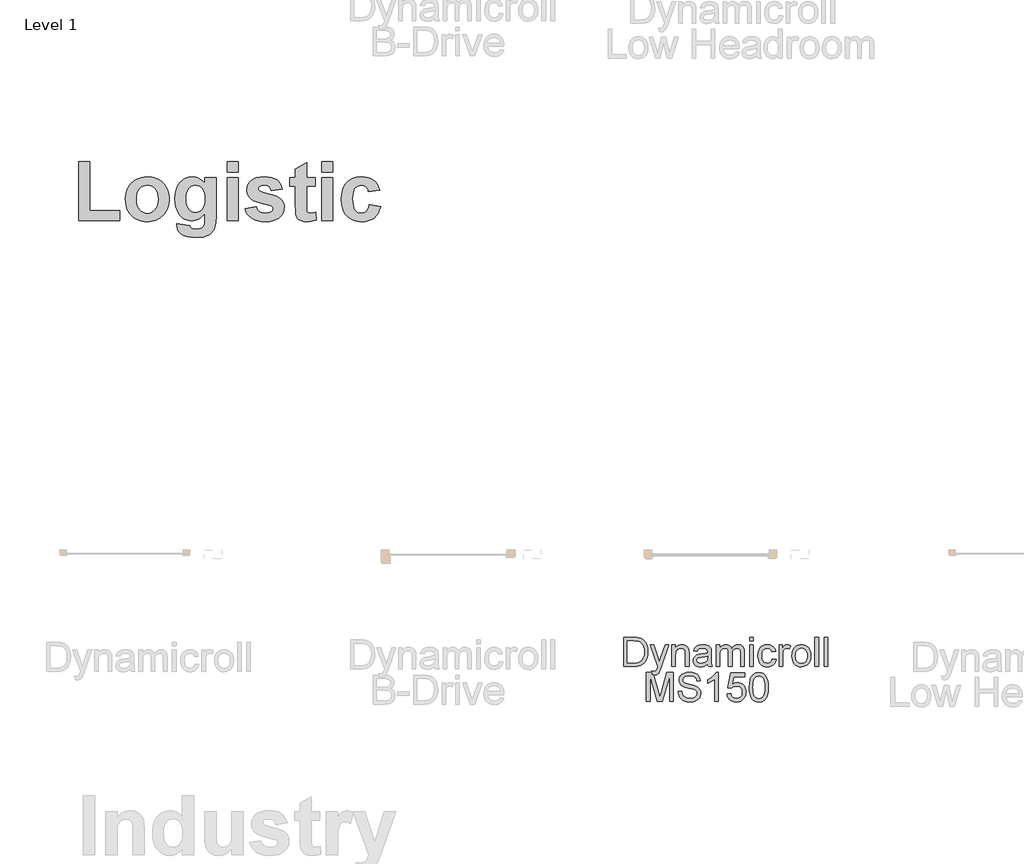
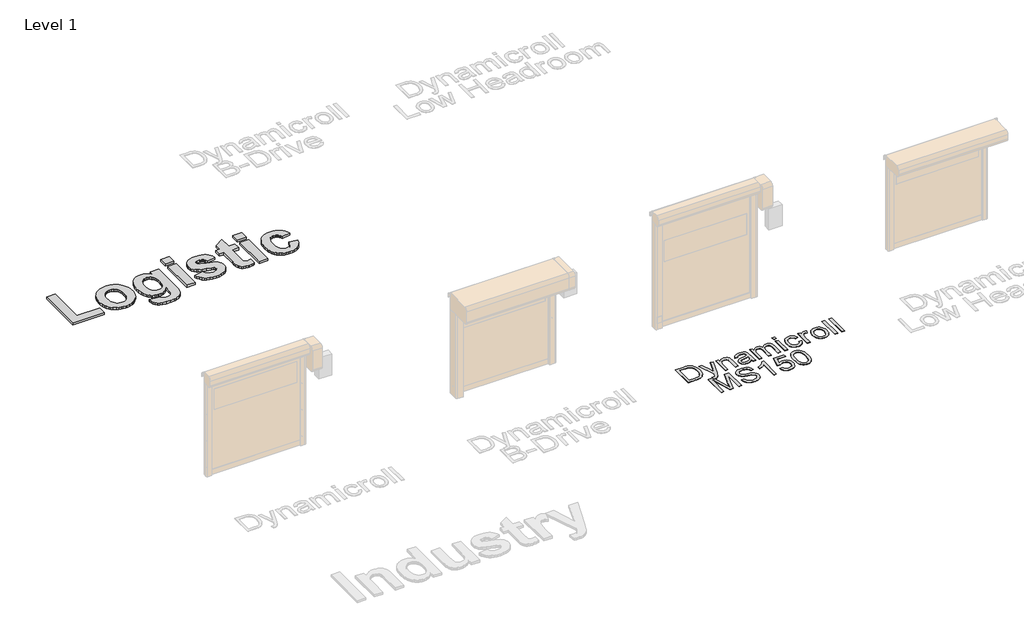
# One storey, part 7 of 20: 2 proxies.
"""IFC4 building model written with IfcOpenShell, lengths in millimetres."""

import ifcopenshell
import ifcopenshell.guid

model = None  # the IFC model being written
_history = None  # IfcOwnerHistory: only IFC2X3 demands one
_inside = {}  # id of a spatial element -> (the spatial element, [elements in it])
_under = {}  # id of a project, library or spatial element -> (it, [spatial elements below it])
_declared = {}  # id of a project -> (the project, [libraries it declares])
_typed = {}  # id of a type object -> (the type object, [elements of that type])
_made_of = {}  # id of a material, layer set ... -> (it, [elements and type objects made of it])


def new_model(schema):
    """Start an empty IFC model of exactly this schema.

    Asked for "IFC4X3", IfcOpenShell would pick the latest addendum, in which some entities
    have other attributes; the version numbers below select the first issue.
    IFC2X3 requires an IfcOwnerHistory on every rooted entity: one is made here for all.
    """
    global model, _history
    if schema == "IFC4X3":
        model = ifcopenshell.file(schema_version=(4, 3, 0, 0))
    else:
        model = ifcopenshell.file(schema=schema)
    _inside.clear()
    _under.clear()
    _declared.clear()
    _typed.clear()
    _made_of.clear()
    _history = None
    if model.schema == "IFC2X3":
        org = make("IfcOrganization", Name="unknown")
        user = make(
            "IfcPersonAndOrganization",
            ThePerson=make("IfcPerson", FamilyName="unknown"),
            TheOrganization=org,
        )
        app = make(
            "IfcApplication",
            ApplicationDeveloper=org,
            Version="unknown",
            ApplicationFullName="unknown",
            ApplicationIdentifier="unknown",
        )
        _history = make(
            "IfcOwnerHistory",
            OwningUser=user,
            OwningApplication=app,
            ChangeAction="ADDED",
            CreationDate=0,
        )
    return model


def make(cls, **values):
    """One entity of the class cls with the attributes given. An attribute that is None is left unset."""
    return model.create_entity(
        cls, **{name: value for name, value in values.items() if value is not None}
    )


def rooted(cls, **values):
    """An entity with a GlobalId (a new one), such as an element, a storey or a relation."""
    return make(cls, GlobalId=ifcopenshell.guid.new(), OwnerHistory=_history, **values)


def si_unit(unit_type, name, prefix=None):
    """IfcSIUnit, for example si_unit("LENGTHUNIT", "METRE", prefix="MILLI")."""
    return make("IfcSIUnit", UnitType=unit_type, Prefix=prefix, Name=name)


def assignment(units):
    """IfcUnitAssignment: the units of a project."""
    return None if units is None else make("IfcUnitAssignment", Units=units)


def point(xyz):
    """IfcCartesianPoint."""
    return None if xyz is None else make("IfcCartesianPoint", Coordinates=xyz)


def direction(xyz):
    """IfcDirection."""
    return None if xyz is None else make("IfcDirection", DirectionRatios=xyz)


def frame(location, z_axis=None, x_axis=None):
    """IfcAxis2Placement3D, a coordinate frame: its origin and axes. An axis left out is left unset."""
    return make(
        "IfcAxis2Placement3D",
        Location=point(location),
        Axis=direction(z_axis),
        RefDirection=direction(x_axis),
    )


def origin():
    """The frame at (0, 0, 0) with its axes left unset."""
    return frame((0.0, 0.0, 0.0))


def origin_with_axes():
    """The frame at (0, 0, 0) with the z axis (0, 0, 1) and the x axis (1, 0, 0) written out."""
    return frame((0.0, 0.0, 0.0), z_axis=(0.0, 0.0, 1.0), x_axis=(1.0, 0.0, 0.0))


def place(relative_to, where):
    """IfcLocalPlacement: puts the frame where relative to a parent placement (None: the world)."""
    return make(
        "IfcLocalPlacement", PlacementRelTo=relative_to, RelativePlacement=where
    )


def context(
    kind, dimensions, precision=None, world=None, true_north=None, identifier=None
):
    """IfcGeometricRepresentationContext, for example the 3D "Model" context."""
    return make(
        "IfcGeometricRepresentationContext",
        ContextIdentifier=identifier,
        ContextType=kind,
        CoordinateSpaceDimension=dimensions,
        Precision=precision,
        WorldCoordinateSystem=world,
        TrueNorth=true_north,
    )


def project(units=None, contexts=None):
    """IfcProject with its units and contexts."""
    return rooted(
        "IfcProject",
        Name="project",
        RepresentationContexts=contexts,
        UnitsInContext=assignment(units),
    )


def spatial(cls, under=None, at=None, **own):
    """A site, building, storey or space (cls), placed at a placement, below another one or the project."""
    s = rooted(cls, ObjectPlacement=at, **own)
    if under is not None:
        _under.setdefault(under.id(), (under, []))[1].append(s)
    return s


def polyline(points):
    """IfcPolyline through the points."""
    return make("IfcPolyline", Points=[point(p) for p in points])


def outline(outer, holes=None, kind="AREA"):
    """IfcArbitraryClosedProfileDef: a profile drawn as a closed curve; with holes, ...WithVoids."""
    if holes is None:
        return make("IfcArbitraryClosedProfileDef", ProfileType=kind, OuterCurve=outer)
    return make(
        "IfcArbitraryProfileDefWithVoids",
        ProfileType=kind,
        OuterCurve=outer,
        InnerCurves=holes,
    )


def extrude(swept, where, along, depth):
    """IfcExtrudedAreaSolid: the profile swept, set in the frame where, extruded along a direction by depth."""
    return make(
        "IfcExtrudedAreaSolid",
        SweptArea=swept,
        Position=where,
        ExtrudedDirection=direction(along),
        Depth=depth,
    )


def shape(context_of_items, identifier, shape_type, items):
    """IfcShapeRepresentation: the items that make up one representation, for example the "Body"."""
    return make(
        "IfcShapeRepresentation",
        ContextOfItems=context_of_items,
        RepresentationIdentifier=identifier,
        RepresentationType=shape_type,
        Items=items,
    )


def made_of(thing, what):
    """Note that an element or type object is made of a material, layer set ...; save() writes the relation."""
    if what is not None:
        _made_of.setdefault(what.id(), (what, []))[1].append(thing)
    return thing


def element(
    cls,
    number,
    at=None,
    inside=None,
    cuts=None,
    type_object=None,
    material=None,
    context=None,
    identifier="Body",
    shape_type=None,
    held_by="IfcProductDefinitionShape",
    body=None,
    shapes=None,
    **own,
):
    """One element of the class cls, such as IfcWall. Its Tag is "e" and its number.

    at: its placement. inside: the storey or other place that contains it. cuts: it is an
    opening in that element (IfcRelVoidsElement). A single representation is given by context,
    identifier, shape_type and body (its items); several are given by shapes. held_by: the class
    of the entity that holds the representations. save() writes the other relations.
    """
    e = rooted(cls, Tag="e%d" % number, ObjectPlacement=at, **own)
    if body is not None:
        shapes = [shape(context, identifier, shape_type, body)]
    if shapes is not None:
        e.Representation = make(held_by, Representations=shapes)
    if inside is not None:
        _inside.setdefault(inside.id(), (inside, []))[1].append(e)
    if cuts is not None:
        rooted(
            "IfcRelVoidsElement", RelatingBuildingElement=cuts, RelatedOpeningElement=e
        )
    if type_object is not None:
        _typed.setdefault(type_object.id(), (type_object, []))[1].append(e)
    return made_of(e, material)


def aggregate(whole, parts):
    """IfcRelAggregates: a whole, such as a stair, and the parts it consists of."""
    return rooted("IfcRelAggregates", RelatingObject=whole, RelatedObjects=parts)


def save(model, path):
    """Write the relations noted so far, then the file.

    IfcRelAggregates (storeys below a building ...), IfcRelContainedInSpatialStructure (elements
    in a storey), IfcRelDefinesByType, IfcRelAssociatesMaterial and IfcRelDeclares: one each for
    every whole, place, type object, material and project.
    """
    for whole, parts in _under.values():
        aggregate(whole, parts)
    for where, things in _inside.values():
        rooted(
            "IfcRelContainedInSpatialStructure",
            RelatedElements=things,
            RelatingStructure=where,
        )
    for kind, things in _typed.values():
        rooted("IfcRelDefinesByType", RelatedObjects=things, RelatingType=kind)
    for what, things in _made_of.values():
        rooted("IfcRelAssociatesMaterial", RelatedObjects=things, RelatingMaterial=what)
    for by, libraries in _declared.values():
        rooted("IfcRelDeclares", RelatingContext=by, RelatedDefinitions=libraries)
    model.write(path)


model = new_model("IFC4")

# Units and contexts
model_context = context("Model", 3, world=origin())
ifc_project = project(units=[si_unit("LENGTHUNIT", "METRE", prefix="MILLI")], contexts=[model_context])

# Site, building, storey
site = spatial("IfcSite", under=ifc_project)
building = spatial("IfcBuilding", under=site)
storey = spatial("IfcBuildingStorey", under=building, Name="Level 1", Elevation=0.0)

# Proxies
placement = place(None, origin())
element("IfcBuildingElementProxy", 1, Name="1000", ObjectType="1000", at=placement, inside=storey, context=model_context, shape_type="SweptSolid", body=[
    extrude(outline(polyline([(688.190889, 26929.161289), (688.190889, 27949.4206889), (882.5260128, 27949.4206889), (882.5260128, 27107.3018191), (1400.7530096, 27107.3018191), (1400.7530096, 26929.161289), (688.190889, 26929.161289)])), origin_with_axes(), (0.0, 0.0, 1.0), 50.0),
    extrude(outline(polyline([(1497.9205715, 27312.264645), (1500.9175203, 27360.8405185), (1509.9083664, 27408.6414553), (1524.8931101, 27455.6674555), (1545.8717512, 27501.9185191), (1572.3382087, 27545.0698363), (1603.7864015, 27582.7965971), (1640.2163297, 27615.0988018), (1681.6279933, 27641.9764501), (1726.8115421, 27663.121149), (1774.5571264, 27678.2245054), (1824.8647459, 27687.2865193), (1877.7344007, 27690.3071905), (1918.6656827, 27688.5952132), (1957.7031144, 27683.4592813), (1994.846696, 27674.8993948), (2030.0964273, 27662.9155536), (2063.4523085, 27647.5077579), (2094.9143395, 27628.6760075), (2124.4825203, 27606.4203025), (2152.156851, 27580.7406429), (2177.2137936, 27552.4435953), (2198.9298106, 27522.3357265), (2217.3049019, 27490.4170364), (2232.3390676, 27456.6875251), (2244.0323075, 27421.1471925), (2252.3846217, 27383.7960387), (2257.3960102, 27344.6340635), (2259.0664731, 27303.6612671), (2257.3782183, 27262.3701932), (2252.3134541, 27222.8859868), (2243.8721803, 27185.2086479), (2232.054397, 27149.3381765), (2216.8601041, 27115.2745726), (2198.2893018, 27083.0178362), (2176.34199, 27052.5679673), (2151.0181686, 27023.9249659), (2123.1362657, 26997.9191212), (2093.5147091, 26975.3807225), (2062.1534989, 26956.3097698), (2029.0526352, 26940.706263), (1994.2121178, 26928.5702021), (1957.6319468, 26919.9015872), (1919.3121221, 26914.7004183), (1879.2526439, 26912.9666953), (1829.1110822, 26915.8529388), (1780.155648, 26924.5116693), (1732.3863412, 26938.9428868), (1685.8031619, 26959.1465913), (1642.5648621, 26984.9330024), (1604.8301937, 27016.1123397), (1572.5991567, 27052.6846031), (1545.8717512, 27094.6497928), (1524.8931101, 27141.7469607), (1509.9083664, 27193.7151587), (1500.9175203, 27250.5543868), (1497.9205715, 27312.264645)]), holes=[polyline([(1692.2556953, 27301.6369429), (1695.6163898, 27246.2447903), (1705.6984733, 27197.732177), (1722.5019457, 27156.099103), (1746.0268071, 27121.3455683), (1774.4859587, 27093.9460239), (1806.0923019, 27074.3749207), (1840.8458366, 27062.6322588), (1878.7465628, 27058.7180382), (1916.6314741, 27062.6322588), (1951.3375637, 27074.3749207), (1982.8648317, 27093.9460239), (2011.2132781, 27121.3455683), (2034.6274342, 27156.1939932), (2051.3518315, 27198.1117378), (2061.3864698, 27247.0988021), (2064.7313493, 27303.1551861), (2061.3864698, 27357.8831073), (2051.3518315, 27405.9212696), (2034.6274342, 27447.269673), (2011.2132781, 27481.9283176), (1982.8648317, 27509.327862), (1951.3375637, 27528.8989652), (1916.6314741, 27540.6416271), (1878.7465628, 27544.5558477), (1840.8458366, 27540.6416271), (1806.0923019, 27528.8989652), (1774.4859587, 27509.327862), (1746.0268071, 27481.9283176), (1722.5019457, 27447.1747828), (1705.6984733, 27405.5417088), (1695.6163898, 27357.0290955), (1692.2556953, 27301.6369429)])]), origin_with_axes(), (0.0, 0.0, 1.0), 50.0),
    extrude(outline(polyline([(2388.6232223, 26880.577508), (2615.3475334, 26848.1883207), (2624.0141714, 26819.5947413), (2639.3863833, 26801.628864), (2654.3948495, 26793.6580874), (2673.1040334, 26787.9646756), (2721.6245542, 26783.4099461), (2755.3105742, 26784.8491141), (2784.5051249, 26789.1666181), (2809.2082062, 26796.362458), (2829.4198182, 26806.436634), (2850.5487021, 26826.6166159), (2865.8576539, 26856.2856176), (2872.3101873, 26891.2052101), (2874.4610318, 26946.8741258), (2874.4610318, 27055.4285113), (2849.912147, 27025.8346311), (2824.3431927, 27000.1866016), (2797.7541687, 26978.4844227), (2770.145075, 26960.7280946), (2741.5159118, 26946.9176171), (2711.866679, 26937.0529904), (2681.1973765, 26931.1342143), (2649.5080044, 26929.161289), (2614.5132904, 26931.1421218), (2581.3926578, 26937.0846204), (2550.1461067, 26946.9887848), (2520.7736369, 26960.8546148), (2493.2752485, 26978.6821106), (2467.6509415, 27000.4712722), (2443.9007159, 27026.2220994), (2422.0245717, 27055.9345924), (2393.2412119, 27109.1047329), (2372.6816692, 27168.4111061), (2360.3459435, 27233.8537121), (2356.234035, 27305.4325508), (2361.6190537, 27393.5301914), (2368.350327, 27433.4334962), (2377.7741098, 27470.573124), (2389.8904018, 27504.9490748), (2404.6992032, 27536.5613486), (2422.2005139, 27565.4099454), (2442.394334, 27591.4948652), (2488.1076865, 27634.7252575), (2512.939265, 27651.708626), (2539.0874449, 27665.6041092), (2566.5522264, 27676.4117073), (2595.3336093, 27684.1314202), (2625.4315937, 27688.763248), (2656.8461796, 27690.3071905), (2689.1404767, 27688.4766005), (2719.9797908, 27682.9848303), (2749.3641219, 27673.8318801), (2777.2934699, 27661.0177497), (2803.7678349, 27644.5424392), (2828.7872169, 27624.4059486), (2852.3516159, 27600.6082779), (2874.4610318, 27573.1494271), (2874.4610318, 27674.1125969), (3068.7961556, 27674.1125969), (3068.7961556, 27012.411622), (3063.5139346, 26898.5117553), (3056.9111584, 26853.873825), (3047.6672717, 26817.4438969), (3036.0432225, 26786.8655308), (3022.299959, 26759.782287), (3006.437481, 26736.1941655), (2988.4557887, 26716.1011663), (2967.8171708, 26698.7441677), (2943.9839163, 26683.3640483), (2886.7334973, 26658.5344467), (2852.8023443, 26649.4012652), (2814.6485775, 26642.8775641), (2725.6732026, 26637.6586033), (2640.3827304, 26641.5491014), (2568.471776, 26653.2205956), (2509.9403394, 26672.673086), (2485.6919402, 26685.3172048), (2464.7884206, 26699.9065726), (2431.1340306, 26733.1181416), (2407.0951807, 26770.5048793), (2392.6718707, 26812.0667857), (2387.8641007, 26857.8038607), (2388.6232223, 26880.577508)]), holes=[polyline([(2550.5691588, 27312.7707261), (2553.3763271, 27255.1723764), (2561.7978321, 27205.8611039), (2575.8336738, 27164.8369087), (2595.4838521, 27132.0997907), (2619.261754, 27107.0804087), (2645.6807664, 27089.2094215), (2674.7408893, 27078.4868293), (2706.4421227, 27074.9126318), (2740.3732757, 27078.5817195), (2771.568428, 27089.5889823), (2800.0275796, 27107.9344204), (2825.7507306, 27133.6180338), (2847.0614874, 27166.4974871), (2862.2834565, 27206.4304451), (2871.416638, 27253.4169077), (2874.4610318, 27307.456875), (2871.5431582, 27363.7979296), (2862.7895375, 27412.373803), (2848.2001697, 27453.1844953), (2827.7750548, 27486.2300065), (2802.8901006, 27511.747562), (2774.921215, 27529.9743874), (2743.8683979, 27540.9104826), (2709.7316495, 27544.5558477), (2676.5912482, 27540.9816503), (2646.5031481, 27530.259058), (2619.4673495, 27512.3880708), (2595.4838521, 27487.3686889), (2575.8336738, 27455.0111316), (2561.7978321, 27415.1256187), (2553.3763271, 27367.7121502), (2550.5691588, 27312.7707261)])]), origin_with_axes(), (0.0, 0.0, 1.0), 50.0),
    extrude(outline(polyline([(3263.1312794, 27771.2801588), (3263.1312794, 27949.4206889), (3457.4664032, 27949.4206889), (3457.4664032, 27771.2801588), (3263.1312794, 27771.2801588)])), origin_with_axes(), (0.0, 0.0, 1.0), 50.0),
    extrude(outline(polyline([(3263.1312794, 26929.161289), (3263.1312794, 27674.1125969), (3457.4664032, 27674.1125969), (3457.4664032, 26929.161289), (3263.1312794, 26929.161289)])), origin_with_axes(), (0.0, 0.0, 1.0), 50.0),
    extrude(outline(polyline([(3570.8285588, 27139.6910064), (3765.1636826, 27172.0801937), (3772.826066, 27145.9221294), (3783.667271, 27123.116852), (3797.6872976, 27103.6643616), (3814.8861459, 27087.5646581), (3835.5326713, 27074.9442619), (3859.8957294, 27065.9296932), (3887.9753202, 27060.5209519), (3919.7714438, 27058.7180382), (3954.5487011, 27060.4418768), (3984.7395988, 27065.6133925), (4010.344137, 27074.2325854), (4031.3623157, 27086.2994555), (4042.4328387, 27096.7373772), (4050.3403551, 27108.8200623), (4055.084865, 27122.5475108), (4056.6663683, 27137.9197228), (4053.3135813, 27158.0364446), (4043.2552204, 27174.3575585), (4020.2917927, 27187.7054462), (3979.7420484, 27199.9146516), (3875.3786466, 27225.3135943), (3792.0492384, 27249.6371149), (3729.753824, 27272.8852132), (3688.4924032, 27295.0578893), (3651.1847407, 27328.0954929), (3624.5364104, 27366.9846587), (3608.5474121, 27411.7253867), (3603.2177461, 27462.3176768), (3607.7882906, 27508.608278), (3621.499924, 27551.0716412), (3644.3526465, 27589.7077665), (3676.346458, 27624.5166538), (3717.9558095, 27653.3000136), (3769.6551519, 27673.8595564), (3831.4444853, 27686.195282), (3903.3238096, 27690.3071905), (3971.7554568, 27686.9860336), (4030.7929745, 27677.0225629), (4080.4363626, 27660.4167784), (4120.6856213, 27637.1686801), (4153.4701844, 27607.4047883), (4180.719486, 27571.2516232), (4202.4335261, 27528.7091848), (4218.6123048, 27479.7774731), (4024.277181, 27447.3882858), (4009.9803913, 27488.9501921), (3999.5108395, 27505.6034217), (3986.8271831, 27519.5048356), (3971.5814915, 27530.4646534), (3953.4258337, 27538.2930947), (3932.36021, 27542.9901594), (3908.3846201, 27544.5558477), (3853.0320051, 27539.2419966), (3832.2352369, 27532.5996828), (3816.0248282, 27523.3004435), (3802.1708595, 27505.8406472), (3797.5528699, 27483.8261215), (3802.1708595, 27464.7848219), (3816.0248282, 27448.6534884), (3836.0703824, 27438.0416014), (3871.4090733, 27425.4370202), (3987.9658655, 27394.2497754), (4055.9784143, 27375.6354817), (4112.872995, 27354.9652337), (4158.6496077, 27332.2390315), (4193.3082522, 27307.456875), (4218.5490446, 27278.6893303), (4236.5781821, 27244.7660848), (4247.3956646, 27205.6871386), (4251.0014921, 27161.4524917), (4245.7746237, 27112.2598319), (4230.0940186, 27066.6571847), (4203.9596768, 27024.6445499), (4167.3715983, 26986.2219275), (4145.2088066, 26969.0527325), (4120.5353785, 26954.1727635), (4063.6566128, 26931.2805034), (3996.7353012, 26917.5451473), (3919.7714438, 26912.9666953), (3849.2601198, 26916.7781183), (3786.5139769, 26928.212387), (3731.5330152, 26947.2695016), (3684.3172346, 26973.949462), (3644.7242998, 27007.1768461), (3612.6118756, 27045.8762315), (3587.9799619, 27090.0476183), (3570.8285588, 27139.6910064)])), origin_with_axes(), (0.0, 0.0, 1.0), 50.0),
    extrude(outline(polyline([(4785.4230825, 27674.1125969), (4785.4230825, 27528.361254), (4639.6717397, 27528.361254), (4639.6717397, 27208.77107), (4640.778792, 27132.0681606), (4644.0999489, 27095.7884752), (4651.3432339, 27081.1121247), (4664.2166707, 27069.21922), (4681.6132068, 27061.3433336), (4702.4257901, 27058.7180382), (4740.88795, 27063.3992879), (4793.5203793, 27077.4430371), (4801.6176762, 26939.28291), (4765.2905457, 26927.7695661), (4726.6544204, 26919.545749), (4685.7093003, 26914.6114588), (4642.4551854, 26912.9666953), (4590.7083979, 26917.5214248), (4544.2754614, 26931.1856132), (4506.3510126, 26952.0614566), (4480.1296882, 26978.251151), (4462.8280422, 27012.2218416), (4451.662629, 27056.4406735), (4446.9181191, 27109.2628832), (4445.3366159, 27197.8903274), (4445.3366159, 27528.361254), (4348.169054, 27528.361254), (4348.169054, 27674.1125969), (4445.3366159, 27674.1125969), (4445.3366159, 27819.8639397), (4639.6717397, 27933.2260953), (4639.6717397, 27674.1125969), (4785.4230825, 27674.1125969)])), origin_with_axes(), (0.0, 0.0, 1.0), 50.0),
    extrude(outline(polyline([(4898.7852381, 27771.2801588), (4898.7852381, 27949.4206889), (5093.1203619, 27949.4206889), (5093.1203619, 27771.2801588), (4898.7852381, 27771.2801588)])), origin_with_axes(), (0.0, 0.0, 1.0), 50.0),
    extrude(outline(polyline([(4898.7852381, 26929.161289), (4898.7852381, 27674.1125969), (5093.1203619, 27674.1125969), (5093.1203619, 26929.161289), (4898.7852381, 26929.161289)])), origin_with_axes(), (0.0, 0.0, 1.0), 50.0),
    extrude(outline(polyline([(5902.8500444, 27463.5828794), (5708.5149206, 27431.1936921), (5702.5131156, 27457.6601496), (5693.6171596, 27480.6314849), (5681.8270526, 27500.1076978), (5667.1427946, 27516.0887885), (5649.8016111, 27528.5431269), (5630.0407275, 27537.4390829), (5607.8601439, 27542.7766565), (5583.2598603, 27544.5558477), (5550.7125227, 27541.2188758), (5521.6444923, 27531.20796), (5496.0557691, 27514.5231003), (5473.9463532, 27491.1642967), (5456.1228111, 27459.992867), (5443.3917097, 27419.8701286), (5435.7530488, 27370.7960816), (5433.2068285, 27312.7707261), (5435.8558465, 27248.2928371), (5443.8029005, 27194.0314593), (5457.0479906, 27149.9865928), (5475.5911166, 27116.1582375), (5498.5940819, 27091.0281503), (5525.2186897, 27073.078088), (5555.4649401, 27062.3080506), (5589.3328329, 27058.7180382), (5614.8187584, 27060.7660849), (5637.8849838, 27066.9102252), (5658.5315092, 27077.150459), (5676.7583346, 27091.4867863), (5692.5180148, 27110.836479), (5705.7631049, 27136.116809), (5716.4936046, 27167.3277764), (5724.7095142, 27204.469381), (5919.044638, 27172.0801937), (5901.1341133, 27111.8644561), (5876.5021996, 27059.5087898), (5845.148897, 27015.0131949), (5807.0742054, 26978.3776712), (5762.1199745, 26949.7603693), (5710.1280539, 26929.3194393), (5651.0984438, 26917.0548813), (5585.031144, 26912.9666953), (5546.4958395, 26914.5758749), (5509.9650905, 26919.4034137), (5475.4388969, 26927.4493117), (5442.9172587, 26938.7135688), (5412.4001759, 26953.1961852), (5383.8876485, 26970.8971607), (5357.3796766, 26991.8164954), (5332.87626, 27015.9541893), (5310.8439424, 27042.9346354), (5291.7492671, 27072.3822266), (5275.5922341, 27104.2969629), (5262.3728435, 27138.6788443), (5252.0910953, 27175.5278709), (5244.7469894, 27214.8440426), (5238.8717047, 27300.8778214), (5244.7074518, 27387.8842246), (5252.0021357, 27427.5621652), (5262.2146932, 27464.6899317), (5275.3451243, 27499.2675242), (5291.3934288, 27531.2949426), (5310.359607, 27560.772187), (5332.2436587, 27587.6992573), (5356.6185781, 27611.7479917), (5383.0573593, 27632.5902281), (5411.5600023, 27650.2259666), (5442.1265071, 27664.6552072), (5474.7568736, 27675.8779499), (5509.4511019, 27683.8941947), (5546.2091921, 27688.7039416), (5585.031144, 27690.3071905), (5646.8521074, 27686.8041608), (5701.999127, 27676.2950714), (5750.4722027, 27658.7799225), (5792.2713346, 27634.2587141), (5828.0291239, 27602.5732957), (5858.378172, 27563.5655172), (5883.3184788, 27517.2353784), (5902.8500444, 27463.5828794)])), origin_with_axes(), (0.0, 0.0, 1.0), 50.0),
])
element("IfcBuildingElementProxy", 2, Name="500mm", ObjectType="500mm", at=placement, inside=storey, context=model_context, shape_type="SweptSolid", body=[
    extrude(outline(polyline([(10134.2260826, 19203.3584781), (10134.2260826, 19705.6400289), (10307.4985024, 19705.6400289), (10359.2778932, 19703.8312757), (10397.1390818, 19698.4050163), (10437.1769057, 19684.4561573), (10470.9607355, 19662.4752081), (10489.5770973, 19644.510304), (10505.6949273, 19624.2154806), (10519.3142253, 19601.5907379), (10530.4349914, 19576.6360759), (10545.2422417, 19520.656699), (10550.1779918, 19457.1970548), (10546.836397, 19403.2870141), (10536.8116127, 19355.8455651), (10521.5445099, 19315.4551877), (10502.4759598, 19282.6983617), (10480.5256674, 19256.8393232), (10456.6133377, 19237.142308), (10429.1601438, 19222.5343271), (10396.5872589, 19211.9423913), (10358.8333691, 19205.5044564), (10315.8371609, 19203.3584781), (10134.2260826, 19203.3584781)]), holes=[polyline([(10197.0112765, 19266.143672), (10308.111639, 19266.143672), (10354.0662316, 19268.4122776), (10388.9230506, 19275.2180945), (10415.2266133, 19286.1625839), (10435.5214367, 19300.8472068), (10457.3337733, 19328.0244892), (10473.7198505, 19363.203205), (10483.9745611, 19406.5366384), (10487.392798, 19458.1780734), (10485.7181685, 19494.6290478), (10480.69428, 19526.6041245), (10472.3211325, 19554.1033037), (10460.598726, 19577.1265852), (10446.4774223, 19596.1951353), (10430.9075833, 19611.8301201), (10413.8892089, 19624.0315396), (10395.4222992, 19632.7993938), (10359.30855, 19640.3409747), (10306.3948564, 19642.854835), (10197.0112765, 19642.854835), (10197.0112765, 19266.143672)])]), origin_with_axes(), (0.0, 0.0, 1.0), 5.0),
    extrude(outline(polyline([(10628.6594841, 19062.091792), (10620.8113349, 19122.5470665), (10652.6944412, 19117.0288366), (10669.4637288, 19118.7609476), (10682.4928828, 19123.9572808), (10692.6402945, 19132.2499541), (10700.7643552, 19143.2710856), (10717.9321816, 19189.5015896), (10722.8372749, 19204.7073788), (10589.418738, 19572.2214919), (10655.6374971, 19572.2214919), (10726.3934675, 19367.433848), (10751.0415612, 19285.5187904), (10775.6896549, 19357.8689161), (10848.4076626, 19572.2214919), (10914.1359124, 19572.2214919), (10785.7450961, 19194.5293102), (10752.3904619, 19112.6142526), (10735.3146059, 19086.4639742), (10715.9701443, 19068.3457859), (10693.4986858, 19057.7691785), (10667.041839, 19054.2436427), (10648.862337, 19056.20568), (10628.6594841, 19062.091792)])), origin_with_axes(), (0.0, 0.0, 1.0), 5.0),
    extrude(outline(polyline([(10966.1299011, 19203.3584781), (10966.1299011, 19572.2214919), (11028.9150949, 19572.2214919), (11028.9150949, 19520.7180126), (11050.7274315, 19546.6843501), (11076.9236953, 19565.231734), (11107.5038861, 19576.3601644), (11142.4680041, 19580.0696412), (11173.4160769, 19577.0806), (11201.758319, 19568.1134763), (11225.3947372, 19554.2872447), (11242.2253384, 19536.7208794), (11253.6450087, 19515.4603658), (11261.0486339, 19490.551689), (11264.3595718, 19429.8511598), (11264.3595718, 19203.3584781), (11201.574378, 19203.3584781), (11201.574378, 19421.3898739), (11199.7656248, 19453.85546), (11194.3393654, 19476.9400552), (11184.3299094, 19493.4794166), (11168.7715667, 19506.3093011), (11148.8292969, 19514.5406608), (11125.6680596, 19517.2844473), (11106.6033416, 19515.7439415), (11088.8951885, 19511.1224239), (11072.5436003, 19503.4198946), (11057.5485769, 19492.6363537), (11045.0214285, 19477.5455276), (11036.0734654, 19456.9211433), (11030.7046875, 19430.7632006), (11028.9150949, 19399.0716996), (11028.9150949, 19203.3584781), (10966.1299011, 19203.3584781)])), origin_with_axes(), (0.0, 0.0, 1.0), 5.0),
    extrude(outline(polyline([(11586.1336903, 19250.4473735), (11556.1359792, 19224.7262907), (11525.2492201, 19207.8956894), (11492.7683056, 19198.606669), (11457.9881286, 19195.5103289), (11430.0329291, 19197.3727315), (11405.518959, 19202.9599393), (11384.4462185, 19212.2719523), (11366.8147075, 19225.3087705), (11352.8926732, 19241.2426594), (11342.948363, 19259.2458846), (11336.9817769, 19279.3184459), (11334.9929149, 19301.4603435), (11337.9972845, 19327.4879947), (11347.0103934, 19351.1244128), (11360.9132671, 19371.3579226), (11378.5869313, 19387.1768484), (11399.3569356, 19399.1330132), (11422.5488297, 19407.7782401), (11476.8727377, 19417.2205446), (11541.0681458, 19427.1533585), (11585.7658083, 19438.802955), (11586.1336903, 19452.7824708), (11581.8110768, 19480.8028161), (11568.8432365, 19499.1356022), (11555.7680972, 19507.075722), (11539.8418725, 19512.7472361), (11499.4361667, 19517.2844473), (11462.0348305, 19514.2647493), (11435.9152089, 19505.2056552), (11418.103589, 19488.451696), (11405.626258, 19462.3474027), (11342.8410641, 19470.195552), (11353.7395682, 19504.5312048), (11370.0030181, 19531.5092178), (11393.148927, 19552.1412664), (11424.694808, 19567.439026), (11463.2764323, 19576.9119874), (11507.5295706, 19580.0696412), (11549.9739558, 19577.2798694), (11583.61983, 19568.910554), (11608.9883592, 19556.3259241), (11626.6007097, 19540.8902087), (11638.2809631, 19521.8063302), (11645.8532008, 19498.2772109), (11648.9188841, 19443.3401663), (11648.9188841, 19365.226556), (11652.1071947, 19256.1495444), (11656.828347, 19229.1868599), (11664.6151826, 19203.3584781), (11601.8299887, 19203.3584781), (11591.7745475, 19225.1861432), (11586.1336903, 19250.4473735)]), holes=[polyline([(11586.1336903, 19376.0177612), (11543.9498881, 19365.5637812), (11484.8435143, 19356.7652701), (11430.8261746, 19346.5872016), (11416.7700167, 19339.6281005), (11406.3620219, 19330.0325118), (11399.924087, 19318.5361994), (11397.7781087, 19305.8749274), (11402.4532757, 19287.2049162), (11416.4787768, 19271.9071566), (11439.5480436, 19261.6984312), (11471.3545078, 19258.2955227), (11505.077024, 19262.0509848), (11534.8754656, 19273.3173709), (11559.0330499, 19289.9180459), (11575.8329944, 19309.6763747), (11583.2826048, 19330.0325118), (11585.7658083, 19358.2367981), (11586.1336903, 19376.0177612)])]), origin_with_axes(), (0.0, 0.0, 1.0), 5.0),
    extrude(outline(polyline([(11735.2485256, 19203.3584781), (11735.2485256, 19572.2214919), (11798.0337195, 19572.2214919), (11798.0337195, 19511.5209627), (11816.9183286, 19539.4033523), (11841.1985402, 19561.2463458), (11870.04662, 19575.3638173), (11902.6348334, 19580.0696412), (11937.5529661, 19575.2718468), (11965.5426546, 19560.8784638), (11986.4506147, 19537.8398538), (12000.1235622, 19507.1063788), (12023.0088879, 19539.0278061), (12049.1131812, 19561.8288256), (12078.4364419, 19575.5094373), (12110.97867, 19580.0696412), (12136.1134409, 19578.1727496), (12158.1748643, 19572.482075), (12177.1629402, 19562.9976173), (12193.0776686, 19549.7193766), (12205.6584664, 19532.4940686), (12214.6447506, 19511.1684092), (12220.0365211, 19485.7423984), (12221.8337779, 19456.2160361), (12221.8337779, 19203.3584781), (12159.0485841, 19203.3584781), (12159.0485841, 19429.2380232), (12157.5923845, 19460.553978), (12153.2237858, 19481.6612075), (12145.0384114, 19496.1159042), (12132.1318848, 19507.4742608), (12115.5312097, 19514.8319007), (12096.2633902, 19517.2844473), (12078.4709308, 19515.7132846), (12062.2496341, 19510.9997966), (12047.5995001, 19503.1439831), (12034.5205287, 19492.1458443), (12023.7638125, 19477.6834834), (12016.0804437, 19459.4350036), (12011.4704225, 19437.4004049), (12009.9337487, 19411.5796874), (12009.9337487, 19203.3584781), (11947.1485549, 19203.3584781), (11947.1485549, 19436.2277811), (11943.5157202, 19471.7283936), (11932.617216, 19497.0509376), (11924.1904191, 19505.9030981), (11913.441367, 19512.2260699), (11884.9764977, 19517.2844473), (11860.7882565, 19513.9121957), (11838.5007389, 19503.7954408), (11820.1066392, 19487.1794374), (11807.5986514, 19464.30944), (11800.4249524, 19432.5796179), (11798.0337195, 19389.3841403), (11798.0337195, 19203.3584781), (11735.2485256, 19203.3584781)])), origin_with_axes(), (0.0, 0.0, 1.0), 5.0),
    extrude(outline(polyline([(12316.0115687, 19642.854835), (12316.0115687, 19705.6400289), (12378.7967625, 19705.6400289), (12378.7967625, 19642.854835), (12316.0115687, 19642.854835)])), origin_with_axes(), (0.0, 0.0, 1.0), 5.0),
    extrude(outline(polyline([(12316.0115687, 19203.3584781), (12316.0115687, 19572.2214919), (12378.7967625, 19572.2214919), (12378.7967625, 19203.3584781), (12316.0115687, 19203.3584781)])), origin_with_axes(), (0.0, 0.0, 1.0), 5.0),
    extrude(outline(polyline([(12708.4190302, 19336.777015), (12771.2042241, 19328.9288658), (12764.3754145, 19299.3028689), (12753.6991724, 19273.0874446), (12739.1754978, 19250.282593), (12720.8043907, 19230.8883141), (12699.3599361, 19215.4104456), (12675.616219, 19204.3548252), (12649.5732394, 19197.721453), (12621.2309974, 19195.5103289), (12586.0177926, 19198.5951727), (12554.4450868, 19207.8497041), (12526.5128799, 19223.2739232), (12502.2211719, 19244.8678299), (12482.5586457, 19272.2252212), (12468.5139841, 19304.939894), (12460.0871872, 19343.0118484), (12457.2782548, 19386.4410844), (12462.0760492, 19442.3131624), (12476.4694322, 19490.73563), (12487.3219511, 19511.6857432), (12500.6883303, 19529.8384204), (12516.5685697, 19545.1936616), (12534.9626695, 19557.7514668), (12575.9661835, 19574.4900976), (12620.372606, 19580.0696412), (12648.2281709, 19578.1535891), (12673.4242554, 19572.4054329), (12695.9608597, 19562.8251727), (12715.8379838, 19549.4128082), (12732.7184024, 19532.4749081), (12746.2648905, 19512.3180404), (12756.4774479, 19488.9422053), (12763.3560748, 19462.3474027), (12700.570881, 19454.4992535), (12689.1818675, 19481.8911337), (12671.4468897, 19501.5268352), (12648.3469661, 19513.3450443), (12620.8631154, 19517.2844473), (12599.5297917, 19515.3454027), (12580.288797, 19509.5282686), (12563.1401311, 19499.8330452), (12548.083794, 19486.2597324), (12535.8248929, 19468.4940977), (12527.068535, 19446.2219086), (12521.8147203, 19419.443165), (12520.0634487, 19388.157867), (12521.7763992, 19356.4012202), (12526.9152508, 19329.3120762), (12535.4800035, 19306.890435), (12547.4706573, 19289.1362967), (12562.2280903, 19275.6434581), (12579.0931805, 19266.0057162), (12598.065928, 19260.2230711), (12619.1463327, 19258.2955227), (12651.657904, 19263.1086455), (12678.3140203, 19277.5480138), (12689.0937291, 19288.4695105), (12697.7044671, 19301.9815097), (12708.4190302, 19336.777015)])), origin_with_axes(), (0.0, 0.0, 1.0), 5.0),
    extrude(outline(polyline([(12826.1412687, 19203.3584781), (12826.1412687, 19572.2214919), (12881.0783133, 19572.2214919), (12881.0783133, 19517.6523293), (12901.3731367, 19549.2901809), (12920.0738048, 19567.9295353), (12938.8357865, 19577.0346147), (12959.3145509, 19580.0696412), (12990.5845205, 19575.2258616), (13022.3449994, 19560.6945228), (13001.3757257, 19504.4085775), (12979.302806, 19514.0654799), (12957.2298863, 19517.2844473), (12938.4832329, 19514.1881072), (12921.7292737, 19504.8990868), (12908.194282, 19490.1224934), (12899.104531, 19470.5634339), (12891.4709796, 19435.4920171), (12888.9264625, 19397.2322896), (12888.9264625, 19203.3584781), (12826.1412687, 19203.3584781)])), origin_with_axes(), (0.0, 0.0, 1.0), 5.0),
    extrude(outline(polyline([(13045.8894471, 19387.789985), (13049.2846914, 19435.5609949), (13059.4704241, 19476.7254574), (13076.4466453, 19511.2833723), (13100.2133551, 19539.2347397), (13124.1410132, 19557.1000091), (13150.5518747, 19569.8609158), (13179.4459398, 19577.5174598), (13210.8232083, 19580.0696412), (13245.4615974, 19576.9618047), (13276.7813843, 19567.6382954), (13304.7825691, 19552.0991132), (13329.4651517, 19530.3442582), (13349.6105231, 19503.1094942), (13364.000074, 19471.1305854), (13372.6338046, 19434.4075316), (13375.5117148, 19392.940333), (13370.4226805, 19329.5113456), (13364.0613877, 19303.4760303), (13355.1555777, 19281.2268338), (13343.8163816, 19262.0088316), (13330.1549305, 19245.0670993), (13314.1712242, 19230.4016369), (13295.8652628, 19218.0124443), (13255.1376603, 19201.1358577), (13210.8232083, 19195.5103289), (13175.6789814, 19198.606669), (13144.0679546, 19207.8956894), (13115.9901277, 19223.37739), (13091.4455009, 19245.0517709), (13071.5147273, 19272.55095), (13057.2784606, 19305.5070454), (13048.7367005, 19343.9200571), (13045.8894471, 19387.789985)]), holes=[polyline([(13108.674641, 19387.9126124), (13110.4910583, 19357.458881), (13115.9403104, 19331.0901725), (13125.0223971, 19308.8064871), (13137.7373186, 19290.6078246), (13153.2036908, 19276.4711926), (13170.5401298, 19266.3735982), (13189.7466356, 19260.3150416), (13210.8232083, 19258.2955227), (13231.792482, 19260.3265379), (13250.9223458, 19266.4195835), (13268.2127995, 19276.5746594), (13283.6638433, 19290.7917656), (13296.3787648, 19309.170537), (13305.4608515, 19331.8106081), (13310.9101036, 19358.711979), (13312.726521, 19389.8746497), (13310.8986073, 19419.3626908), (13305.4148663, 19445.0416205), (13296.275298, 19466.9114387), (13283.4799023, 19484.9721454), (13267.971377, 19499.1087775), (13250.6924195, 19509.2063719), (13231.64303, 19515.2649285), (13210.8232083, 19517.2844473), (13189.7466356, 19515.2725927), (13170.5401298, 19509.2370287), (13153.2036908, 19499.1777554), (13137.7373186, 19485.0947728), (13125.0223971, 19466.9497598), (13115.9403104, 19444.7043954), (13110.4910583, 19418.3586796), (13108.674641, 19387.9126124)])]), origin_with_axes(), (0.0, 0.0, 1.0), 5.0),
    extrude(outline(polyline([(13446.1450579, 19203.3584781), (13446.1450579, 19705.6400289), (13508.9302517, 19705.6400289), (13508.9302517, 19203.3584781), (13446.1450579, 19203.3584781)])), origin_with_axes(), (0.0, 0.0, 1.0), 5.0),
    extrude(outline(polyline([(13603.1080425, 19203.3584781), (13603.1080425, 19705.6400289), (13665.8932363, 19705.6400289), (13665.8932363, 19203.3584781), (13603.1080425, 19203.3584781)])), origin_with_axes(), (0.0, 0.0, 1.0), 5.0),
    extrude(outline(polyline([(10526.6335441, 18593.4843889), (10526.6335441, 19095.7659396), (10634.6682234, 19095.7659396), (10737.4299274, 18741.7408329), (10758.1539464, 18667.7965519), (10780.5947482, 18747.8721995), (10881.6396695, 19095.7659396), (10989.6743487, 19095.7659396), (10989.6743487, 18593.4843889), (10926.8891549, 18593.4843889), (10926.8891549, 19032.9807458), (10800.7056306, 18593.4843889), (10715.6022623, 18593.4843889), (10589.418738, 19032.9807458), (10589.418738, 18593.4843889), (10526.6335441, 18593.4843889)])), origin_with_axes(), (0.0, 0.0, 1.0), 5.0),
    extrude(outline(polyline([(11076.0039903, 18766.143672), (11138.7891841, 18766.143672), (11145.9935399, 18731.3021813), (11159.0226939, 18703.2971645), (11179.3481741, 18681.0709606), (11208.4415085, 18663.565909), (11244.0034347, 18652.2075524), (11283.7346902, 18648.4214335), (11318.7141366, 18651.2878474), (11349.3403127, 18659.887089), (11374.157019, 18673.4987228), (11391.7080558, 18691.4023133), (11402.1467074, 18711.9577198), (11405.626258, 18733.5248017), (11403.0204272, 18754.5400607), (11395.2029348, 18772.7042342), (11379.3226953, 18788.2012633), (11352.5286233, 18801.2150888), (11261.1099475, 18825.1887322), (11201.0991971, 18841.0536432), (11162.7015138, 18856.1521334), (11131.4468726, 18877.2746913), (11109.2973108, 18902.8731468), (11096.0995443, 18932.3956769), (11091.7002887, 18965.2904587), (11097.1418766, 19002.0633298), (11113.4666401, 19036.3529974), (11125.6029139, 19051.8806833), (11140.2453837, 19065.415675), (11177.0489116, 19086.5075761), (11221.2254079, 19099.3374607), (11270.1230564, 19103.6140889), (11323.0980637, 19099.1381913), (11369.4511951, 19085.7104984), (11407.5269816, 19063.6069219), (11422.8400696, 19049.405144), (11435.6699542, 19033.1033731), (11453.4815742, 18996.1005758), (11460.5633026, 18954.4992535), (11397.7781087, 18954.4992535), (11393.5781226, 18974.5334938), (11386.2511395, 18991.9619033), (11375.7971595, 19006.7844821), (11362.2161825, 19019.00123), (11345.2552897, 19028.5508334), (11324.6615622, 19035.3719788), (11272.575603, 19040.828895), (11219.2633706, 19035.4332924), (11198.8842409, 19028.6887892), (11182.6897689, 19019.2464846), (11170.3503936, 19007.8957923), (11161.5365542, 18995.4261255), (11156.2482505, 18981.8374843), (11154.4854826, 18967.1298687), (11159.4825463, 18943.0029411), (11174.4737377, 18923.5971659), (11188.2386556, 18914.9672674), (11209.9130365, 18906.2453985), (11276.990187, 18888.525749), (11346.2133157, 18871.6951477), (11388.0905495, 18857.0105248), (11423.882402, 18834.2324979), (11448.8523924, 18806.1201821), (11463.5216869, 18772.9801457), (11468.4114518, 18735.118957), (11462.785923, 18696.4147055), (11445.9093364, 18660.0097164), (11418.471471, 18628.6784331), (11381.1621053, 18605.1952991), (11336.2958303, 18590.5260045), (11286.1872369, 18585.6362397), (11224.6743016, 18590.9092149), (11197.9990248, 18597.500434), (11174.044542, 18606.7281407), (11152.6652331, 18618.6076635), (11133.7154783, 18633.1543307), (11117.1952774, 18650.3681424), (11103.1046306, 18670.2490986), (11091.7539382, 18692.1534057), (11083.4536007, 18715.4372703), (11078.203618, 18740.1006924), (11076.0039903, 18766.143672)])), origin_with_axes(), (0.0, 0.0, 1.0), 5.0),
    extrude(outline(polyline([(11774.4892718, 18593.4843889), (11711.7040779, 18593.4843889), (11711.7040779, 18984.9108318), (11685.4924858, 18963.7116318), (11652.2298221, 18942.5430886), (11586.1336903, 18910.8439234), (11586.1336903, 18970.195552), (11635.445206, 18997.0202808), (11678.1655027, 19028.9340439), (11711.8420337, 19062.8711579), (11734.0222523, 19095.7659396), (11774.4892718, 19095.7659396), (11774.4892718, 18593.4843889)])), origin_with_axes(), (0.0, 0.0, 1.0), 5.0),
    extrude(outline(polyline([(11923.6041072, 18726.9029258), (11986.389301, 18734.751075), (11997.9162702, 18697.058499), (12006.8987222, 18682.2244239), (12018.0271526, 18670.0651576), (12031.2785686, 18660.5960283), (12046.6299777, 18653.8323645), (12083.6327751, 18648.4214335), (12107.5451048, 18650.3029966), (12128.6370058, 18655.947686), (12146.9084782, 18665.3555016), (12162.359522, 18678.5264434), (12174.6452478, 18694.8090538), (12183.4207663, 18713.5518751), (12188.6860773, 18734.7549071), (12190.441181, 18758.4181501), (12188.7972083, 18780.7823097), (12183.8652903, 18800.6632658), (12175.645427, 18818.0610185), (12164.1376183, 18832.9755678), (12149.3035433, 18844.9393968), (12131.1048809, 18853.484989), (12109.541631, 18858.6123443), (12084.6137937, 18860.3214627), (12054.1562302, 18857.5930046), (12029.4928081, 18849.4076302), (12009.795793, 18836.8689855), (11994.2374502, 18821.0807166), (11931.4522564, 18828.9288658), (11986.389301, 19087.9177904), (12229.6819272, 19087.9177904), (12229.6819272, 19025.1325966), (12037.1570163, 19025.1325966), (12010.3016307, 18886.8089664), (12032.4588567, 18902.6892058), (12055.1525773, 18914.032234), (12078.3827924, 18920.8380509), (12102.1495022, 18923.1066566), (12132.7258609, 18920.2938921), (12160.811352, 18911.8555989), (12186.4059754, 18897.7917768), (12209.5097311, 18878.1024258), (12228.6357627, 18853.9908267), (12242.2972139, 18826.6602602), (12250.4940846, 18796.1107262), (12253.2263748, 18762.3422247), (12250.766164, 18729.8153249), (12243.3855315, 18699.5570308), (12231.0844773, 18671.5673424), (12213.8630014, 18645.8462595), (12187.7740365, 18619.5043758), (12157.3318014, 18600.6887446), (12122.5362961, 18589.3993659), (12083.3875204, 18585.6362397), (12050.9870801, 18588.0542974), (12021.721301, 18595.3084705), (11995.590183, 18607.3987589), (11972.5937262, 18624.3251628), (11953.4600303, 18645.2446192), (11938.9171952, 18669.3140651), (11928.9652208, 18696.5335007), (11923.6041072, 18726.9029258)])), origin_with_axes(), (0.0, 0.0, 1.0), 5.0),
    extrude(outline(polyline([(12308.1634195, 18840.5784623), (12312.7772728, 18920.9760067), (12326.6188329, 18985.0947728), (12336.965514, 19011.2948686), (12349.5501439, 19033.9157792), (12364.3727226, 19052.9575046), (12381.4332502, 19068.4200447), (12400.7892081, 19080.3838737), (12422.4980779, 19088.9294659), (12446.5598596, 19094.0568212), (12472.9745533, 19095.7659396), (12511.6634765, 19091.7192377), (12546.3056977, 19079.5791319), (12575.2764048, 19059.820803), (12596.9507857, 19032.9194321), (12613.3215345, 18999.1049454), (12626.3813453, 18958.6072691), (12634.9346017, 18907.1804319), (12637.7856871, 18840.5784623), (12633.217819, 18760.6407705), (12619.5142147, 18696.6752885), (12609.2480078, 18670.4636964), (12596.7208594, 18647.8082968), (12581.9327696, 18628.7090899), (12564.8837384, 18613.1660756), (12545.5047879, 18601.1217724), (12523.7269402, 18592.5186987), (12499.5501953, 18587.3568544), (12472.9745533, 18585.6362397), (12438.3936457, 18588.6252809), (12407.7368128, 18597.5924045), (12381.0040545, 18612.5376106), (12358.1953708, 18633.460899), (12336.3063921, 18671.2837667), (12320.6714073, 18718.4109831), (12311.2904164, 18774.8425483), (12308.1634195, 18840.5784623)]), holes=[polyline([(12370.9486133, 18840.7010897), (12372.7880233, 18786.1204307), (12378.3062532, 18741.9401024), (12387.5033031, 18708.1601046), (12400.3791729, 18684.7804374), (12415.952844, 18668.8733732), (12433.2432978, 18657.5111845), (12452.2505342, 18650.6938712), (12472.9745533, 18648.4214335), (12493.6985724, 18650.7015355), (12512.7058088, 18657.5418413), (12529.9962625, 18668.942351), (12545.5699337, 18684.9030647), (12558.4458035, 18708.3210529), (12567.6428534, 18742.0933865), (12573.1610833, 18786.2200654), (12575.0004933, 18840.7010897), (12573.222397, 18893.8370453), (12567.8881081, 18937.2394566), (12558.9976265, 18970.9083233), (12546.5509523, 18994.8436456), (12531.2378643, 19011.528627), (12513.7481411, 19023.4464708), (12494.0817828, 19030.597177), (12472.2387893, 19032.9807458), (12451.6220692, 19030.8807527), (12432.9367295, 19024.5807736), (12416.1827703, 19014.0808083), (12401.3601916, 18999.3808569), (12388.0551261, 18973.3225489), (12378.5515079, 18938.1898184), (12372.8493369, 18893.9826653), (12370.9486133, 18840.7010897)])]), origin_with_axes(), (0.0, 0.0, 1.0), 5.0),
])

save(model, "model.ifc")
